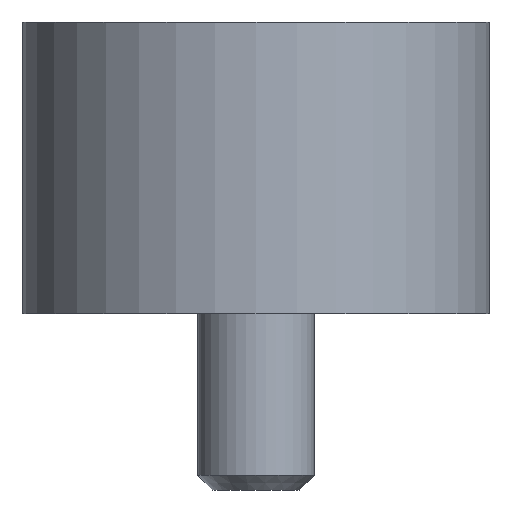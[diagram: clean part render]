
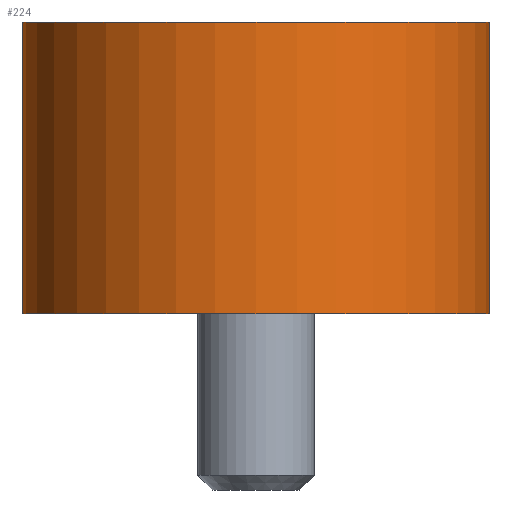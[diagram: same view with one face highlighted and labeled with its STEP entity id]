
A CAD part, front view. The second image highlights one B-rep face of the part: STEP entity #224.
In plain terms, the highlighted cylindrical face has radius 8 mm (diameter 16 mm), a partial arc.
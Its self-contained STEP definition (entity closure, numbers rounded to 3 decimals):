
#26 = AXIS2_PLACEMENT_3D ( 'NONE', #331, #848, #237 ) ;
#29 = EDGE_CURVE ( 'NONE', #687, #678, #143, .T. ) ;
#52 = CARTESIAN_POINT ( 'NONE',  ( 0., 0., 10. ) ) ;
#60 = FACE_OUTER_BOUND ( 'NONE', #120, .T. ) ;
#82 = ORIENTED_EDGE ( 'NONE', *, *, #764, .T. ) ;
#84 = AXIS2_PLACEMENT_3D ( 'NONE', #52, #251, #837 ) ;
#106 = CARTESIAN_POINT ( 'NONE',  ( -8., 0., 10. ) ) ;
#115 = VECTOR ( 'NONE', #700, 1000. ) ;
#120 = EDGE_LOOP ( 'NONE', ( #312, #282, #82, #379 ) ) ;
#121 = CARTESIAN_POINT ( 'NONE',  ( 0., 0., 0. ) ) ;
#143 = CIRCLE ( 'NONE', #630, 8. ) ;
#224 = ADVANCED_FACE ( 'NONE', ( #60 ), #327, .T. ) ;
#237 = DIRECTION ( 'NONE',  ( 1., 0., 0. ) ) ;
#247 = VERTEX_POINT ( 'NONE', #816 ) ;
#251 = DIRECTION ( 'NONE',  ( 0., 0., 1. ) ) ;
#282 = ORIENTED_EDGE ( 'NONE', *, *, #29, .F. ) ;
#312 = ORIENTED_EDGE ( 'NONE', *, *, #365, .F. ) ;
#316 = LINE ( 'NONE', #762, #115 ) ;
#327 = CYLINDRICAL_SURFACE ( 'NONE', #26, 8. ) ;
#331 = CARTESIAN_POINT ( 'NONE',  ( 0., 0., 5. ) ) ;
#339 = DIRECTION ( 'NONE',  ( 1., 0., 0. ) ) ;
#365 = EDGE_CURVE ( 'NONE', #678, #750, #675, .T. ) ;
#379 = ORIENTED_EDGE ( 'NONE', *, *, #804, .F. ) ;
#419 = DIRECTION ( 'NONE',  ( 0., 0., -1. ) ) ;
#473 = VECTOR ( 'NONE', #598, 1000. ) ;
#598 = DIRECTION ( 'NONE',  ( 0., 0., 1. ) ) ;
#630 = AXIS2_PLACEMENT_3D ( 'NONE', #121, #419, #339 ) ;
#662 = CIRCLE ( 'NONE', #84, 8. ) ;
#675 = LINE ( 'NONE', #679, #473 ) ;
#678 = VERTEX_POINT ( 'NONE', #725 ) ;
#679 = CARTESIAN_POINT ( 'NONE',  ( -8., 0., 5. ) ) ;
#687 = VERTEX_POINT ( 'NONE', #871 ) ;
#700 = DIRECTION ( 'NONE',  ( 0., 0., 1. ) ) ;
#725 = CARTESIAN_POINT ( 'NONE',  ( -8., 0., 0. ) ) ;
#750 = VERTEX_POINT ( 'NONE', #106 ) ;
#762 = CARTESIAN_POINT ( 'NONE',  ( 8., 0., 5. ) ) ;
#764 = EDGE_CURVE ( 'NONE', #687, #247, #316, .T. ) ;
#804 = EDGE_CURVE ( 'NONE', #750, #247, #662, .T. ) ;
#816 = CARTESIAN_POINT ( 'NONE',  ( 8., 0., 10. ) ) ;
#837 = DIRECTION ( 'NONE',  ( 1., 0., 0. ) ) ;
#848 = DIRECTION ( 'NONE',  ( 0., 0., 1. ) ) ;
#871 = CARTESIAN_POINT ( 'NONE',  ( 8., 0., 0. ) ) ;
